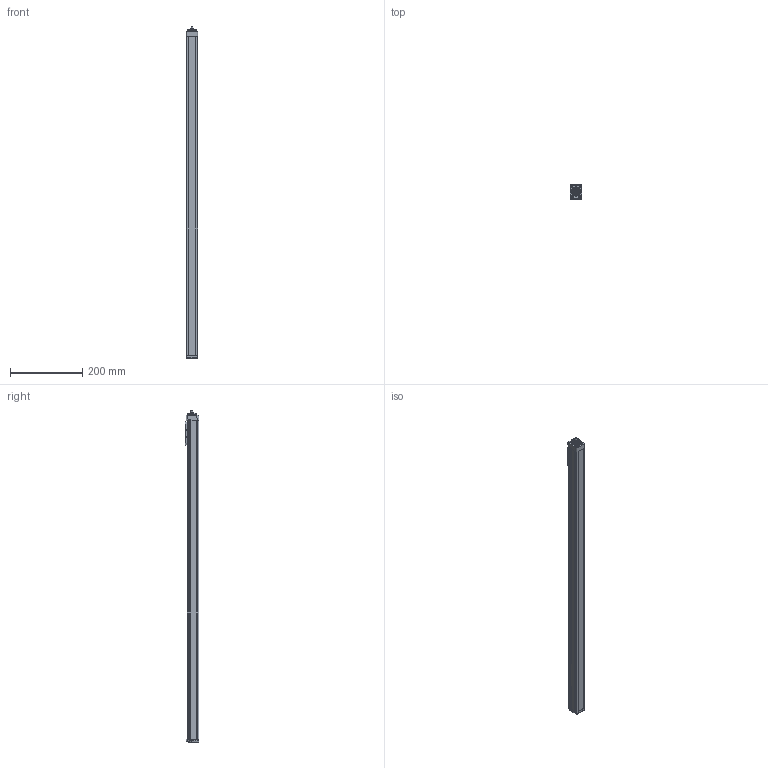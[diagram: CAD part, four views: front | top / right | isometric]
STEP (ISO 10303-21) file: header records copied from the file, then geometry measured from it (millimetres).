
FILE_DESCRIPTION(/* description */ ('STEP AP214'),/* implementation_level */ '2;1');
FILE_NAME(/* name */ 'MGBS 32 0802 800(0)',/* time_stamp */ '2023-04-12T10:48:08+02:00',/* author */ ('License CC BY-ND 4.0'),/* organization */ ('CADENAS'),/* preprocessor_version */ 'ST-DEVELOPER v19.3',/* originating_system */ 'PARTsolutions',/* authorisation */ ' ');
FILE_SCHEMA (('AUTOMOTIVE_DESIGN {1 0 10303 214 3 1 1}'));
Length unit declared in the file: millimetre
Products named in the file (6): MGBS 32 0802 800(0); MGBS 32 800_protection_strip; MGBS 32_carriage; MGBS 32_end_block; MGBS 32 800_profile; MGBS 32_drive_block
Assembly tree (5 placements, depth 2):
  MGBS 32 0802 800(0)
    MGBS 32 800_protection_strip
    MGBS 32_carriage
    MGBS 32_end_block
    MGBS 32 800_profile
    MGBS 32_drive_block
Bounding box: 32 x 38.5 x 919.5 mm (x, y, z)
Volume: 853017 mm3; surface area: 206971.8 mm2
Topology: 5 solids, 5 shells, 638 faces, 1686 edges, 1092 vertices
Faces by surface type: plane 301, cylinder 160, cone 94, bspline 56, torus 25, sphere 2
Full cylindrical faces by diameter (mm): 0.3 x1, 1.567 x4, 1.755 x4, 1.8 x2, 2 x2, 2.3 x4, 2.459 x8, 2.46 x4, 2.5 x11, 3 x1, 3.8 x4, 4.5 x6, 5 x5, 7.5 x1, 8 x1, 10 x1, 13.84 x1, 14.2 x1, 17.8 x1, 18.16 x1, 19.5 x1, 25 x2, 25.7 x1
Entity records: 23436 total; most frequent: CARTESIAN_POINT 4050, DIRECTION 3216, ORIENTED_EDGE 2990, EDGE_CURVE 1495, AXIS2_PLACEMENT_3D 1173, VERTEX_POINT 1077, LINE 870, VECTOR 870
